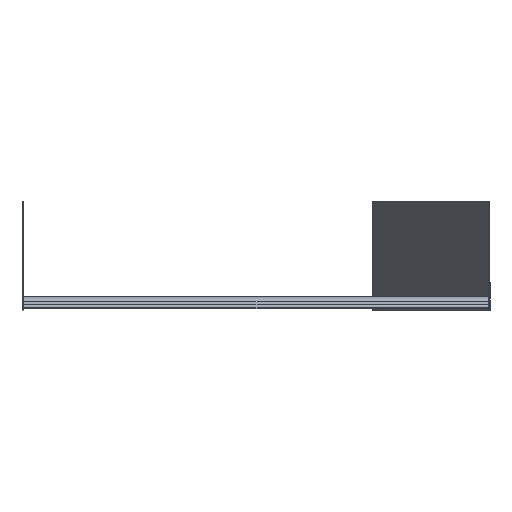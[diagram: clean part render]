
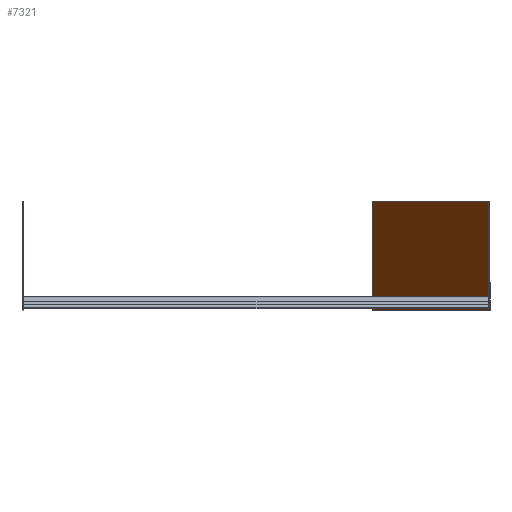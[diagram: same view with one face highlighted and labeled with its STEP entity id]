
A CAD part, top view. The second image highlights one B-rep face of the part: STEP entity #7321.
In plain terms, the highlighted planar face has unit normal (-0.881, 0, 0.472).
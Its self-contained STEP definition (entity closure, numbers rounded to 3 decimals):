
#543 = EDGE_LOOP ( 'NONE', ( #5625, #11190, #9225, #11396 ) ) ;
#941 = LINE ( 'NONE', #3467, #5592 ) ;
#1482 = DIRECTION ( 'NONE',  ( 0., 1., 0. ) ) ;
#1660 = LINE ( 'NONE', #1838, #7774 ) ;
#1704 = CARTESIAN_POINT ( 'NONE',  ( 375., 140., 0. ) ) ;
#1838 = CARTESIAN_POINT ( 'NONE',  ( 225.415, 0., -279.226 ) ) ;
#1885 = AXIS2_PLACEMENT_3D ( 'NONE', #10474, #5919, #6033 ) ;
#2703 = DIRECTION ( 'NONE',  ( -0.472, 0., -0.881 ) ) ;
#3157 = EDGE_CURVE ( 'NONE', #7624, #10718, #1660, .T. ) ;
#3300 = PLANE ( 'NONE',  #1885 ) ;
#3467 = CARTESIAN_POINT ( 'NONE',  ( 375., 0., 0. ) ) ;
#3935 = CARTESIAN_POINT ( 'NONE',  ( 374.822, 140., -0.332 ) ) ;
#4047 = CARTESIAN_POINT ( 'NONE',  ( 225.415, 0., -279.226 ) ) ;
#4707 = VERTEX_POINT ( 'NONE', #7841 ) ;
#4996 = VERTEX_POINT ( 'NONE', #3935 ) ;
#5064 = EDGE_CURVE ( 'NONE', #4996, #10718, #11452, .T. ) ;
#5576 = VECTOR ( 'NONE', #6077, 1000. ) ;
#5592 = VECTOR ( 'NONE', #2703, 1000. ) ;
#5625 = ORIENTED_EDGE ( 'NONE', *, *, #3157, .F. ) ;
#5919 = DIRECTION ( 'NONE',  ( -0.881, 0., 0.472 ) ) ;
#6033 = DIRECTION ( 'NONE',  ( 0.472, 0., 0.881 ) ) ;
#6077 = DIRECTION ( 'NONE',  ( -0.472, 0., -0.881 ) ) ;
#6106 = EDGE_CURVE ( 'NONE', #4707, #4996, #8545, .T. ) ;
#6206 = EDGE_CURVE ( 'NONE', #4707, #7624, #941, .T. ) ;
#7146 = DIRECTION ( 'NONE',  ( 0., 1., 0. ) ) ;
#7321 = ADVANCED_FACE ( 'NONE', ( #9533 ), #3300, .T. ) ;
#7624 = VERTEX_POINT ( 'NONE', #4047 ) ;
#7673 = CARTESIAN_POINT ( 'NONE',  ( 374.822, 0., -0.332 ) ) ;
#7774 = VECTOR ( 'NONE', #7146, 1000. ) ;
#7841 = CARTESIAN_POINT ( 'NONE',  ( 374.822, 0., -0.332 ) ) ;
#8545 = LINE ( 'NONE', #7673, #10631 ) ;
#9225 = ORIENTED_EDGE ( 'NONE', *, *, #6106, .T. ) ;
#9533 = FACE_OUTER_BOUND ( 'NONE', #543, .T. ) ;
#10474 = CARTESIAN_POINT ( 'NONE',  ( 375., 140., 0. ) ) ;
#10631 = VECTOR ( 'NONE', #1482, 1000. ) ;
#10718 = VERTEX_POINT ( 'NONE', #10910 ) ;
#10910 = CARTESIAN_POINT ( 'NONE',  ( 225.415, 140., -279.226 ) ) ;
#11190 = ORIENTED_EDGE ( 'NONE', *, *, #6206, .F. ) ;
#11396 = ORIENTED_EDGE ( 'NONE', *, *, #5064, .T. ) ;
#11452 = LINE ( 'NONE', #1704, #5576 ) ;
